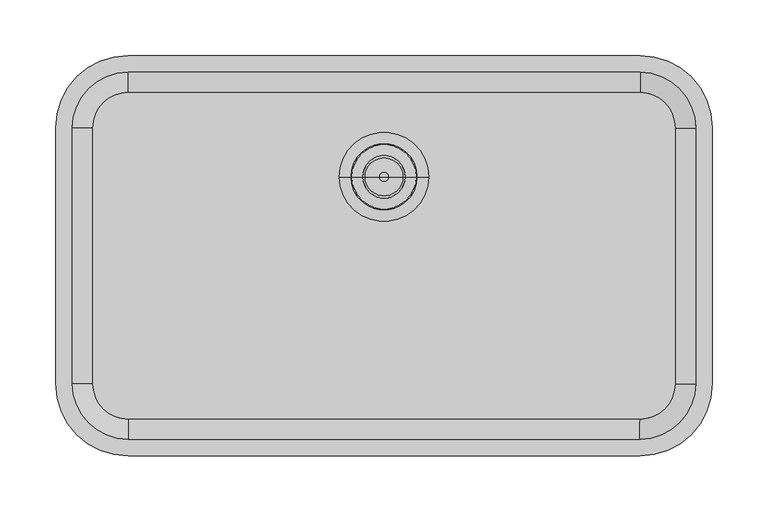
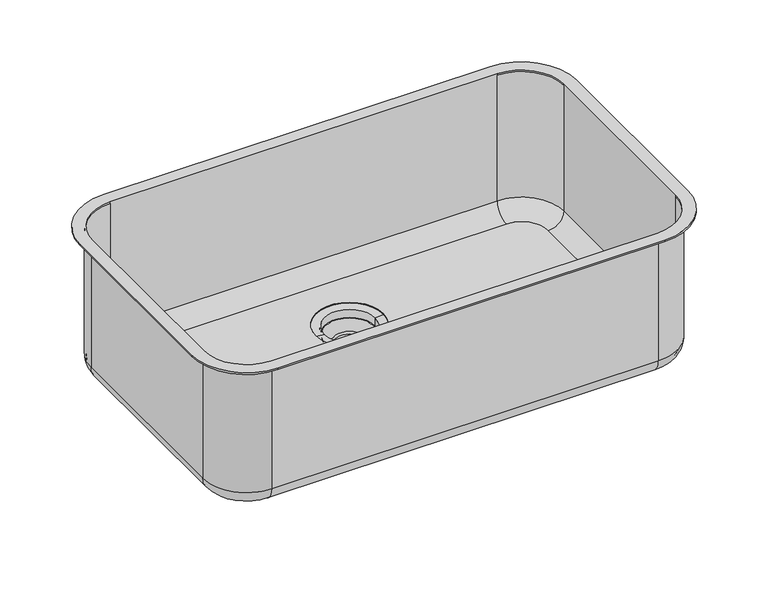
"""IFC4 building model written with IfcOpenShell, lengths in millimetres: flow terminal geometry, Blks_Coz Franke_Cuba de Embutir : Único."""

from ifc_helpers import new_model, si_unit, point, frame, origin, place, context, project, spatial, polyline, circle_curve, ellipse_curve, trimmed, source, transform, mapped, element, save
from ifc_brep_helpers import plane_surface, cylinder_surface, revolved_surface, advanced_brep


def flow_terminal_f6a3c244(model_context):
    return source(origin(), model_context, "Body", "AdvancedBrep", [
        advanced_brep(
        [(31.0, 70.9997644, -205.9049876), (-31.0, 70.9997644, -205.9049876), (-40.0, 70.9997644, -205.0049876), (40.0, 70.9997644, -205.0049876), (31.0, 70.9997644, -216.0), (-31.0, 70.9997644, -216.0), (29.9544512, 70.9997644, -216.0), (-29.9544512, 70.9997644, -216.0), (19.8395675, 70.9997644, -225.9679135), (-19.8395675, 70.9997644, -225.9679135), (17.0, 70.9997644, -228.0), (-17.0, 70.9997644, -228.0), (0.0, 70.9997644, -228.0), (1.9682294, 70.9997644, -222.7729139), (-1.9682294, 70.9997644, -222.7729139), (0.0, 70.9997644, -219.0317884), (2.2289485, 70.9997644, -227.0), (-2.2289485, 70.9997644, -227.0), (17.0, 70.9997644, -227.0), (-17.0, 70.9997644, -227.0), (19.0, 70.9997644, -225.0), (-19.0, 70.9997644, -225.0), (29.0, 70.9997644, -215.0), (-29.0, 70.9997644, -215.0), (30.0, 70.9997644, -215.0), (-30.0, 70.9997644, -215.0), (30.0, 70.9997644, -205.0), (-30.0, 70.9997644, -205.0), (40.0, 70.9997644, -204.0), (-40.0, 70.9997644, -204.0)],
        [
            (0, 1, circle_curve(frame((0.0, 70.9997644, -205.9049876), z_axis=(0.0, 0.0, 1.0), x_axis=(-1.0, 0.0, 0.0)), 31.0)),
            (1, 2),
            (2, 3, circle_curve(frame((0.0, 70.9997644, -205.0049876), z_axis=(0.0, 0.0, -1.0), x_axis=(-1.0, 0.0, 0.0)), 40.0)),
            (3, 0),
            (1, 0, circle_curve(frame((0.0, 70.9997644, -205.9049876), z_axis=(0.0, 0.0, 1.0), x_axis=(-1.0, 0.0, 0.0)), 31.0)),
            (3, 2, circle_curve(frame((0.0, 70.9997644, -205.0049876), z_axis=(0.0, 0.0, -1.0), x_axis=(-1.0, 0.0, 0.0)), 40.0)),
            (4, 5, circle_curve(frame((0.0, 70.9997644, -216.0), z_axis=(0.0, 0.0, 1.0), x_axis=(-1.0, 0.0, 0.0)), 31.0)),
            (5, 1),
            (0, 4),
            (5, 4, circle_curve(frame((0.0, 70.9997644, -216.0), z_axis=(0.0, 0.0, 1.0), x_axis=(-1.0, 0.0, 0.0)), 31.0)),
            (6, 7, circle_curve(frame((0.0, 70.9997644, -216.0), z_axis=(0.0, 0.0, 1.0), x_axis=(-1.0, 0.0, 0.0)), 29.9544512)),
            (7, 5),
            (4, 6),
            (7, 6, circle_curve(frame((0.0, 70.9997644, -216.0), z_axis=(0.0, 0.0, 1.0), x_axis=(-1.0, 0.0, 0.0)), 29.9544512)),
            (8, 9, circle_curve(frame((0.0, 70.9997644, -225.9679135), z_axis=(0.0, 0.0, 1.0), x_axis=(-1.0, 0.0, 0.0)), 19.8395675)),
            (9, 7, circle_curve(frame((-19.0, 70.9997644, -215.0), z_axis=(0.0, 1.0, 0.0), x_axis=(1.0, 0.0, 0.0)), 11.0)),
            (6, 8, circle_curve(frame((19.0, 70.9997644, -215.0), z_axis=(0.0, 1.0, 0.0), x_axis=(-1.0, 0.0, 0.0)), 11.0)),
            (9, 8, circle_curve(frame((0.0, 70.9997644, -225.9679135), z_axis=(0.0, 0.0, 1.0), x_axis=(-1.0, 0.0, 0.0)), 19.8395675)),
            (10, 11, circle_curve(frame((0.0, 70.9997644, -228.0), z_axis=(0.0, 0.0, 1.0), x_axis=(-1.0, 0.0, 0.0)), 17.0)),
            (11, 9, circle_curve(frame((-17.0, 70.9997644, -225.0), z_axis=(0.0, 1.0, 0.0), x_axis=(1.0, 0.0, 0.0)), 3.0)),
            (8, 10, circle_curve(frame((17.0, 70.9997644, -225.0), z_axis=(0.0, 1.0, 0.0), x_axis=(-1.0, 0.0, 0.0)), 3.0)),
            (11, 10, circle_curve(frame((0.0, 70.9997644, -228.0), z_axis=(0.0, 0.0, 1.0), x_axis=(-1.0, 0.0, 0.0)), 17.0)),
            (12, 11),
            (10, 12),
            (13, 14, circle_curve(frame((0.0, 70.9997644, -222.7729139), z_axis=(0.0, 0.0, 1.0), x_axis=(-1.0, 0.0, 0.0)), 1.9682294)),
            (14, 15, ellipse_curve(frame((0.0, 70.9997644, -221.0317884), z_axis=(0.0, 1.0, 0.0), x_axis=(-1.0, 0.0, 0.0)), 4.0, 2.0)),
            (15, 13, ellipse_curve(frame((0.0, 70.9997644, -221.0317884), z_axis=(0.0, 1.0, 0.0), x_axis=(1.0, 0.0, 0.0)), 4.0, 2.0)),
            (14, 13, circle_curve(frame((0.0, 70.9997644, -222.7729139), z_axis=(0.0, 0.0, 1.0), x_axis=(-1.0, 0.0, 0.0)), 1.9682294)),
            (16, 17, circle_curve(frame((0.0, 70.9997644, -227.0), z_axis=(0.0, 0.0, 1.0), x_axis=(-1.0, 0.0, 0.0)), 2.2289485)),
            (17, 14, circle_curve(frame((0.0, 70.9997644, -225.0158942), z_axis=(0.0, 1.0, 0.0), x_axis=(1.0, 0.0, 0.0)), 2.9841058)),
            (13, 16, circle_curve(frame((0.0, 70.9997644, -225.0158942), z_axis=(0.0, 1.0, 0.0), x_axis=(-1.0, 0.0, 0.0)), 2.9841058)),
            (17, 16, circle_curve(frame((0.0, 70.9997644, -227.0), z_axis=(0.0, 0.0, 1.0), x_axis=(-1.0, 0.0, 0.0)), 2.2289485)),
            (18, 19, circle_curve(frame((0.0, 70.9997644, -227.0), z_axis=(0.0, 0.0, 1.0), x_axis=(-1.0, 0.0, 0.0)), 17.0)),
            (19, 17),
            (16, 18),
            (19, 18, circle_curve(frame((0.0, 70.9997644, -227.0), z_axis=(0.0, 0.0, 1.0), x_axis=(-1.0, 0.0, 0.0)), 17.0)),
            (20, 21, circle_curve(frame((0.0, 70.9997644, -225.0), z_axis=(0.0, 0.0, 1.0), x_axis=(-1.0, 0.0, 0.0)), 19.0)),
            (21, 19, circle_curve(frame((-17.0, 70.9997644, -225.0), z_axis=(0.0, -1.0, 0.0), x_axis=(1.0, 0.0, 0.0)), 2.0)),
            (18, 20, circle_curve(frame((17.0, 70.9997644, -225.0), z_axis=(0.0, -1.0, 0.0), x_axis=(-1.0, 0.0, 0.0)), 2.0)),
            (21, 20, circle_curve(frame((0.0, 70.9997644, -225.0), z_axis=(0.0, 0.0, 1.0), x_axis=(-1.0, 0.0, 0.0)), 19.0)),
            (22, 23, circle_curve(frame((0.0, 70.9997644, -215.0), z_axis=(0.0, 0.0, 1.0), x_axis=(-1.0, 0.0, 0.0)), 29.0)),
            (23, 21, circle_curve(frame((-19.0, 70.9997644, -215.0), z_axis=(0.0, -1.0, 0.0), x_axis=(1.0, 0.0, 0.0)), 10.0)),
            (20, 22, circle_curve(frame((19.0, 70.9997644, -215.0), z_axis=(0.0, -1.0, 0.0), x_axis=(-1.0, 0.0, 0.0)), 10.0)),
            (23, 22, circle_curve(frame((0.0, 70.9997644, -215.0), z_axis=(0.0, 0.0, 1.0), x_axis=(-1.0, 0.0, 0.0)), 29.0)),
            (24, 25, circle_curve(frame((0.0, 70.9997644, -215.0), z_axis=(0.0, 0.0, 1.0), x_axis=(-1.0, 0.0, 0.0)), 30.0)),
            (25, 23),
            (22, 24),
            (25, 24, circle_curve(frame((0.0, 70.9997644, -215.0), z_axis=(0.0, 0.0, 1.0), x_axis=(-1.0, 0.0, 0.0)), 30.0)),
            (26, 27, circle_curve(frame((0.0, 70.9997644, -205.0), z_axis=(0.0, 0.0, 1.0), x_axis=(-1.0, 0.0, 0.0)), 30.0)),
            (27, 25),
            (24, 26),
            (27, 26, circle_curve(frame((0.0, 70.9997644, -205.0), z_axis=(0.0, 0.0, 1.0), x_axis=(-1.0, 0.0, 0.0)), 30.0)),
            (28, 29, circle_curve(frame((0.0, 70.9997644, -204.0), z_axis=(0.0, 0.0, 1.0), x_axis=(-1.0, 0.0, 0.0)), 40.0)),
            (29, 27),
            (26, 28),
            (29, 28, circle_curve(frame((0.0, 70.9997644, -204.0), z_axis=(0.0, 0.0, 1.0), x_axis=(-1.0, 0.0, 0.0)), 40.0)),
            (2, 29),
            (28, 3),
        ],
        [
            revolved_surface(polyline([(-40.0, 70.9997644, -205.0049876), (-31.0, 70.9997644, -205.9049876)]), (0.0, 70.9997644, -197.0), (0.0, 0.0, -1.0)),
            cylinder_surface(frame((0.0, 70.9997644, -197.0), z_axis=(0.0, 0.0, -1.0), x_axis=(-1.0, 0.0, 0.0)), 31.0),
            plane_surface(frame((0.0, 70.9997644, -216.0), z_axis=(0.0, 0.0, -1.0), x_axis=(-1.0, 0.0, 0.0))),
            revolved_surface(trimmed(ellipse_curve(frame((-19.0, 70.9997644, -215.0), z_axis=(0.0, -1.0, 0.0), x_axis=(1.0, 0.0, 0.0)), 11.0, 11.0), [point((-29.9544512, 70.9997644, -216.0))], [point((-19.8395675, 70.9997644, -225.9679135))], True, "CARTESIAN"), (0.0, 70.9997644, -197.0), (0.0, 0.0, -1.0)),
            revolved_surface(trimmed(ellipse_curve(frame((-17.0, 70.9997644, -225.0), z_axis=(0.0, -1.0, 0.0), x_axis=(1.0, 0.0, 0.0)), 3.0, 3.0), [point((-19.8395675, 70.9997644, -225.9679135))], [point((-17.0, 70.9997644, -228.0))], True, "CARTESIAN"), (0.0, 70.9997644, -197.0), (0.0, 0.0, -1.0)),
            plane_surface(frame((0.0, 70.9997644, -228.0), z_axis=(0.0, 0.0, -1.0), x_axis=(-1.0, 0.0, 0.0))),
            revolved_surface(trimmed(ellipse_curve(frame((0.0, 70.9997644, -221.0317884), z_axis=(0.0, -1.0, 0.0), x_axis=(-1.0, 0.0, 0.0)), 4.0, 2.0), [point((0.0, 70.9997644, -219.0317884))], [point((-1.9682294, 70.9997644, -222.7729139))], True, "CARTESIAN"), (0.0, 70.9997644, -197.0), (0.0, 0.0, -1.0)),
            revolved_surface(trimmed(ellipse_curve(frame((0.0, 70.9997644, -225.0158942), z_axis=(0.0, -1.0, 0.0), x_axis=(1.0, 0.0, 0.0)), 2.9841058, 2.9841058), [point((-1.9682294, 70.9997644, -222.7729139))], [point((-2.2289485, 70.9997644, -227.0))], True, "CARTESIAN"), (0.0, 70.9997644, -197.0), (0.0, 0.0, -1.0)),
            plane_surface(frame((0.0, 70.9997644, -227.0), z_axis=(0.0, 0.0, 1.0), x_axis=(-1.0, 0.0, 0.0))),
            revolved_surface(trimmed(ellipse_curve(frame((-17.0, 70.9997644, -225.0), z_axis=(0.0, 1.0, 0.0), x_axis=(1.0, 0.0, 0.0)), 2.0, 2.0), [point((-17.0, 70.9997644, -227.0))], [point((-19.0, 70.9997644, -225.0))], True, "CARTESIAN"), (0.0, 70.9997644, -197.0), (0.0, 0.0, -1.0)),
            revolved_surface(trimmed(ellipse_curve(frame((-19.0, 70.9997644, -215.0), z_axis=(0.0, 1.0, 0.0), x_axis=(1.0, 0.0, 0.0)), 10.0, 10.0), [point((-19.0, 70.9997644, -225.0))], [point((-29.0, 70.9997644, -215.0))], True, "CARTESIAN"), (0.0, 70.9997644, -197.0), (0.0, 0.0, -1.0)),
            plane_surface(frame((0.0, 70.9997644, -215.0), z_axis=(0.0, 0.0, 1.0), x_axis=(-1.0, 0.0, 0.0))),
            revolved_surface(polyline([(-30.0, 70.9997644, -215.0), (-30.0, 70.9997644, -205.0)]), (0.0, 70.9997644, -197.0), (0.0, 0.0, -1.0)),
            revolved_surface(polyline([(-30.0, 70.9997644, -205.0), (-40.0, 70.9997644, -204.0)]), (0.0, 70.9997644, -197.0), (0.0, 0.0, -1.0)),
            cylinder_surface(frame((0.0, 70.9997644, -197.0), z_axis=(0.0, 0.0, -1.0), x_axis=(-1.0, 0.0, 0.0)), 40.0),
        ],
        [
            (0, [[1, 2, 3, 4]]),
            (0, [[5, -4, 6, -2]]),
            (1, [[7, 8, -1, 9]]),
            (1, [[10, -9, -5, -8]]),
            (2, [[11, 12, -7, 13]]),
            (2, [[14, -13, -10, -12]]),
            (3, [[15, 16, -11, 17]]),
            (3, [[18, -17, -14, -16]]),
            (4, [[19, 20, -15, 21]]),
            (4, [[22, -21, -18, -20]]),
            (5, [[23, -19, 24]]),
            (5, [[-24, -22, -23]]),
            (6, [[25, 26, 27]]),
            (6, [[28, -27, -26]]),
            (7, [[29, 30, -25, 31]]),
            (7, [[32, -31, -28, -30]]),
            (8, [[33, 34, -29, 35]]),
            (8, [[36, -35, -32, -34]]),
            (9, [[37, 38, -33, 39]]),
            (9, [[40, -39, -36, -38]]),
            (10, [[41, 42, -37, 43]]),
            (10, [[44, -43, -40, -42]]),
            (11, [[45, 46, -41, 47]]),
            (11, [[48, -47, -44, -46]]),
            (12, [[49, 50, -45, 51]]),
            (12, [[52, -51, -48, -50]]),
            (13, [[53, 54, -49, 55]]),
            (13, [[56, -55, -52, -54]]),
            (14, [[-3, 57, -53, 58]]),
            (14, [[-6, -58, -56, -57]]),
        ],
    ),
        advanced_brep(
        [(-230.0, -147.0, -205.0), (-230.0, -167.0, -185.0), (-282.0, -115.0, -185.0), (-262.0, -115.0, -205.0), (-230.0, -165.0, -185.0), (-230.0, -147.0, -203.0), (-262.0, -115.0, -203.0), (-280.0, -115.0, -185.0), (-282.0, 115.0, -185.0), (-262.0, 115.0, -205.0), (-262.0, 115.0, -203.0), (-280.0, 115.0, -185.0), (-230.0, 167.0, -185.0), (-230.0, 147.0, -205.0), (-230.0, 147.0, -203.0), (-230.0, 165.0, -185.0), (230.0, 167.0, -185.0), (230.0, 147.0, -205.0), (230.0, 147.0, -203.0), (230.0, 165.0, -185.0), (282.0, 115.0, -185.0), (262.0, 115.0, -205.0), (262.0, 115.0, -203.0), (280.0, 115.0, -185.0), (282.0, -115.0, -185.0), (262.0, -115.0, -205.0), (262.0, -115.0, -203.0), (280.0, -115.0, -185.0), (230.0, -167.0, -185.0), (230.0, -147.0, -205.0), (230.0, -147.0, -203.0), (230.0, -165.0, -185.0), (40.0, 71.0, -203.0), (40.0, 71.0, -205.0), (-40.0, 71.0, -205.0), (-40.0, 71.0, -203.0), (230.0, 165.0, -27.0), (280.0, 115.0, -27.0), (280.0, -115.0, -27.0), (280.0, -115.0, -25.0), (280.0, 115.0, -25.0), (230.0, -165.0, -27.0), (-230.0, -165.0, -27.0), (-230.0, -165.0, -25.0), (230.0, -165.0, -25.0), (-280.0, -115.0, -27.0), (-280.0, 115.0, -27.0), (-280.0, 115.0, -25.0), (-280.0, -115.0, -25.0), (-230.0, 165.0, -27.0), (230.0, 165.0, -25.0), (-230.0, 165.0, -25.0), (-230.0, 167.0, -27.0), (-282.0, 115.0, -27.0), (-282.0, -115.0, -27.0), (-230.0, -167.0, -27.0), (230.0, -167.0, -27.0), (282.0, -115.0, -27.0), (282.0, 115.0, -27.0), (230.0, 167.0, -27.0), (-295.0, 115.0, -25.0), (-295.0, -115.0, -25.0), (-230.0, -180.0, -25.0), (230.0, -180.0, -25.0), (295.0, -115.0, -25.0), (295.0, 115.0, -25.0), (230.0, 180.0, -25.0), (-230.0, 180.0, -25.0), (-295.0, 115.0, -27.0), (-230.0, 180.0, -27.0), (230.0, 180.0, -27.0), (295.0, 115.0, -27.0), (295.0, -115.0, -27.0), (230.0, -180.0, -27.0), (-230.0, -180.0, -27.0), (-295.0, -115.0, -27.0)],
        [
            (0, 1, circle_curve(frame((-230.0, -147.0, -185.0), z_axis=(-1.0, 0.0, 0.0), x_axis=(0.0, 1.0, 0.0)), 20.0)),
            (1, 2, circle_curve(frame((-230.0, -115.0, -185.0), z_axis=(0.0, 0.0, -1.0), x_axis=(0.0, -1.0, 0.0)), 52.0)),
            (2, 3, circle_curve(frame((-262.0, -115.0, -185.0), z_axis=(0.0, -1.0, 0.0), x_axis=(1.0, 0.0, 0.0)), 20.0)),
            (3, 0, circle_curve(frame((-230.0, -115.0, -205.0), z_axis=(0.0, 0.0, 1.0), x_axis=(0.0, -1.0, 0.0)), 32.0)),
            (4, 5, circle_curve(frame((-230.0, -147.0, -185.0), z_axis=(1.0, 0.0, 0.0), x_axis=(0.0, 1.0, 0.0)), 18.0)),
            (5, 6, circle_curve(frame((-230.0, -115.0, -203.0), z_axis=(0.0, 0.0, -1.0), x_axis=(0.0, -1.0, 0.0)), 32.0)),
            (6, 7, circle_curve(frame((-262.0, -115.0, -185.0), z_axis=(0.0, 1.0, 0.0), x_axis=(1.0, 0.0, 0.0)), 18.0)),
            (7, 4, circle_curve(frame((-230.0, -115.0, -185.0), z_axis=(0.0, 0.0, 1.0), x_axis=(0.0, -1.0, 0.0)), 50.0)),
            (2, 8),
            (8, 9, circle_curve(frame((-262.0, 115.0, -185.0), z_axis=(0.0, -1.0, 0.0), x_axis=(1.0, 0.0, 0.0)), 20.0)),
            (9, 3),
            (6, 10),
            (10, 11, circle_curve(frame((-262.0, 115.0, -185.0), z_axis=(0.0, 1.0, 0.0), x_axis=(1.0, 0.0, 0.0)), 18.0)),
            (11, 7),
            (8, 12, circle_curve(frame((-230.0, 115.0, -185.0), z_axis=(0.0, 0.0, -1.0), x_axis=(-1.0, 0.0, 0.0)), 52.0)),
            (12, 13, circle_curve(frame((-230.0, 147.0, -185.0), z_axis=(-1.0, 0.0, 0.0), x_axis=(0.0, -1.0, 0.0)), 20.0)),
            (13, 9, circle_curve(frame((-230.0, 115.0, -205.0), z_axis=(0.0, 0.0, 1.0), x_axis=(-1.0, 0.0, 0.0)), 32.0)),
            (10, 14, circle_curve(frame((-230.0, 115.0, -203.0), z_axis=(0.0, 0.0, -1.0), x_axis=(-1.0, 0.0, 0.0)), 32.0)),
            (14, 15, circle_curve(frame((-230.0, 147.0, -185.0), z_axis=(1.0, 0.0, 0.0), x_axis=(0.0, -1.0, 0.0)), 18.0)),
            (15, 11, circle_curve(frame((-230.0, 115.0, -185.0), z_axis=(0.0, 0.0, 1.0), x_axis=(-1.0, 0.0, 0.0)), 50.0)),
            (12, 16),
            (16, 17, circle_curve(frame((230.0, 147.0, -185.0), z_axis=(-1.0, 0.0, 0.0), x_axis=(0.0, -1.0, 0.0)), 20.0)),
            (17, 13),
            (14, 18),
            (18, 19, circle_curve(frame((230.0, 147.0, -185.0), z_axis=(1.0, 0.0, 0.0), x_axis=(0.0, -1.0, 0.0)), 18.0)),
            (19, 15),
            (16, 20, circle_curve(frame((230.0, 115.0, -185.0), z_axis=(0.0, 0.0, -1.0), x_axis=(0.0, 1.0, 0.0)), 52.0)),
            (20, 21, circle_curve(frame((262.0, 115.0, -185.0), z_axis=(0.0, 1.0, 0.0), x_axis=(-1.0, 0.0, 0.0)), 20.0)),
            (21, 17, circle_curve(frame((230.0, 115.0, -205.0), z_axis=(0.0, 0.0, 1.0), x_axis=(0.0, 1.0, 0.0)), 32.0)),
            (18, 22, circle_curve(frame((230.0, 115.0, -203.0), z_axis=(0.0, 0.0, -1.0), x_axis=(0.0, 1.0, 0.0)), 32.0)),
            (22, 23, circle_curve(frame((262.0, 115.0, -185.0), z_axis=(0.0, -1.0, 0.0), x_axis=(-1.0, 0.0, 0.0)), 18.0)),
            (23, 19, circle_curve(frame((230.0, 115.0, -185.0), z_axis=(0.0, 0.0, 1.0), x_axis=(0.0, 1.0, 0.0)), 50.0)),
            (20, 24),
            (24, 25, circle_curve(frame((262.0, -115.0, -185.0), z_axis=(0.0, 1.0, 0.0), x_axis=(-1.0, 0.0, 0.0)), 20.0)),
            (25, 21),
            (22, 26),
            (26, 27, circle_curve(frame((262.0, -115.0, -185.0), z_axis=(0.0, -1.0, 0.0), x_axis=(-1.0, 0.0, 0.0)), 18.0)),
            (27, 23),
            (24, 28, circle_curve(frame((230.0, -115.0, -185.0), z_axis=(0.0, 0.0, -1.0), x_axis=(1.0, 0.0, 0.0)), 52.0)),
            (28, 29, circle_curve(frame((230.0, -147.0, -185.0), z_axis=(1.0, 0.0, 0.0), x_axis=(0.0, 1.0, 0.0)), 20.0)),
            (29, 25, circle_curve(frame((230.0, -115.0, -205.0), z_axis=(0.0, 0.0, 1.0), x_axis=(1.0, 0.0, 0.0)), 32.0)),
            (26, 30, circle_curve(frame((230.0, -115.0, -203.0), z_axis=(0.0, 0.0, -1.0), x_axis=(1.0, 0.0, 0.0)), 32.0)),
            (30, 31, circle_curve(frame((230.0, -147.0, -185.0), z_axis=(-1.0, 0.0, 0.0), x_axis=(0.0, 1.0, 0.0)), 18.0)),
            (31, 27, circle_curve(frame((230.0, -115.0, -185.0), z_axis=(0.0, 0.0, 1.0), x_axis=(1.0, 0.0, 0.0)), 50.0)),
            (0, 29),
            (28, 1),
            (4, 31),
            (30, 5),
            (32, 33),
            (33, 34, circle_curve(frame((0.0, 71.0, -205.0), z_axis=(0.0, 0.0, -1.0), x_axis=(1.0, 0.0, 0.0)), 40.0)),
            (34, 35),
            (35, 32, circle_curve(frame((0.0, 71.0, -203.0), z_axis=(0.0, 0.0, 1.0), x_axis=(1.0, 0.0, 0.0)), 40.0)),
            (32, 35, circle_curve(frame((0.0, 71.0, -203.0), z_axis=(0.0, 0.0, 1.0), x_axis=(1.0, 0.0, 0.0)), 40.0)),
            (34, 33, circle_curve(frame((0.0, 71.0, -205.0), z_axis=(0.0, 0.0, -1.0), x_axis=(1.0, 0.0, 0.0)), 40.0)),
            (36, 19),
            (23, 37),
            (37, 36, circle_curve(frame((230.0, 115.0, -27.0), z_axis=(0.0, 0.0, 1.0), x_axis=(1.0, 0.0, 0.0)), 50.0)),
            (27, 38),
            (38, 39),
            (39, 40),
            (40, 37),
            (31, 41),
            (41, 38, circle_curve(frame((230.0, -115.0, -27.0), z_axis=(0.0, 0.0, 1.0), x_axis=(1.0, 0.0, 0.0)), 50.0)),
            (4, 42),
            (42, 43),
            (43, 44),
            (44, 41),
            (7, 45),
            (45, 42, circle_curve(frame((-230.0, -115.0, -27.0), z_axis=(0.0, 0.0, 1.0), x_axis=(1.0, 0.0, 0.0)), 50.0)),
            (11, 46),
            (46, 47),
            (47, 48),
            (48, 45),
            (15, 49),
            (49, 46, circle_curve(frame((-230.0, 115.0, -27.0), z_axis=(0.0, 0.0, 1.0), x_axis=(1.0, 0.0, 0.0)), 50.0)),
            (36, 50),
            (50, 51),
            (51, 49),
            (52, 12),
            (8, 53),
            (53, 52, circle_curve(frame((-230.0, 115.0, -27.0), z_axis=(0.0, 0.0, -1.0), x_axis=(1.0, 0.0, 0.0)), 52.0)),
            (2, 54),
            (54, 53),
            (1, 55),
            (55, 54, circle_curve(frame((-230.0, -115.0, -27.0), z_axis=(0.0, 0.0, -1.0), x_axis=(1.0, 0.0, 0.0)), 52.0)),
            (28, 56),
            (56, 55),
            (24, 57),
            (57, 56, circle_curve(frame((230.0, -115.0, -27.0), z_axis=(0.0, 0.0, -1.0), x_axis=(1.0, 0.0, 0.0)), 52.0)),
            (20, 58),
            (58, 57),
            (16, 59),
            (59, 58, circle_curve(frame((230.0, 115.0, -27.0), z_axis=(0.0, 0.0, -1.0), x_axis=(1.0, 0.0, 0.0)), 52.0)),
            (52, 59),
            (60, 61),
            (61, 62, circle_curve(frame((-230.0, -115.0, -25.0), z_axis=(0.0, 0.0, 1.0), x_axis=(1.0, 0.0, 0.0)), 65.0)),
            (62, 63),
            (63, 64, circle_curve(frame((230.0, -115.0, -25.0), z_axis=(0.0, 0.0, 1.0), x_axis=(1.0, 0.0, 0.0)), 65.0)),
            (64, 65),
            (65, 66, circle_curve(frame((230.0, 115.0, -25.0), z_axis=(0.0, 0.0, 1.0), x_axis=(1.0, 0.0, 0.0)), 65.0)),
            (66, 67),
            (67, 60, circle_curve(frame((-230.0, 115.0, -25.0), z_axis=(0.0, 0.0, 1.0), x_axis=(1.0, 0.0, 0.0)), 65.0)),
            (50, 40, circle_curve(frame((230.0, 115.0, -25.0), z_axis=(0.0, 0.0, -1.0), x_axis=(1.0, 0.0, 0.0)), 50.0)),
            (39, 44, circle_curve(frame((230.0, -115.0, -25.0), z_axis=(0.0, 0.0, -1.0), x_axis=(1.0, 0.0, 0.0)), 50.0)),
            (43, 48, circle_curve(frame((-230.0, -115.0, -25.0), z_axis=(0.0, 0.0, -1.0), x_axis=(1.0, 0.0, 0.0)), 50.0)),
            (47, 51, circle_curve(frame((-230.0, 115.0, -25.0), z_axis=(0.0, 0.0, -1.0), x_axis=(1.0, 0.0, 0.0)), 50.0)),
            (68, 69, circle_curve(frame((-230.0, 115.0, -27.0), z_axis=(0.0, 0.0, -1.0), x_axis=(1.0, 0.0, 0.0)), 65.0)),
            (69, 70),
            (70, 71, circle_curve(frame((230.0, 115.0, -27.0), z_axis=(0.0, 0.0, -1.0), x_axis=(1.0, 0.0, 0.0)), 65.0)),
            (71, 72),
            (72, 73, circle_curve(frame((230.0, -115.0, -27.0), z_axis=(0.0, 0.0, -1.0), x_axis=(1.0, 0.0, 0.0)), 65.0)),
            (73, 74),
            (74, 75, circle_curve(frame((-230.0, -115.0, -27.0), z_axis=(0.0, 0.0, -1.0), x_axis=(1.0, 0.0, 0.0)), 65.0)),
            (75, 68),
            (60, 68),
            (75, 61),
            (74, 62),
            (73, 63),
            (72, 64),
            (71, 65),
            (70, 66),
            (69, 67),
        ],
        [
            revolved_surface(trimmed(ellipse_curve(frame((-230.0, -147.0, -185.0), z_axis=(1.0, 0.0, 0.0), x_axis=(0.0, 1.0, 0.0)), 20.0, 20.0), [point((-230.0, -167.0, -185.0))], [point((-230.0, -147.0, -205.0))], True, "CARTESIAN"), (-230.0, -115.0, -185.0), (0.0, 0.0, -1.0)),
            revolved_surface(trimmed(ellipse_curve(frame((-230.0, -147.0, -185.0), z_axis=(-1.0, 0.0, 0.0), x_axis=(0.0, 1.0, 0.0)), 18.0, 18.0), [point((-230.0, -147.0, -203.0))], [point((-230.0, -165.0, -185.0))], True, "CARTESIAN"), (-230.0, -115.0, -185.0), (0.0, 0.0, -1.0)),
            cylinder_surface(frame((-262.0, -115.0, -185.0), z_axis=(0.0, -1.0, 0.0), x_axis=(1.0, 0.0, 0.0)), 20.0),
            revolved_surface(polyline([(-244.0, 115.0, -185.0), (-244.0, -115.0, -185.0)]), (-262.0, -115.0, -185.0), (0.0, 1.0, 0.0)),
            revolved_surface(trimmed(ellipse_curve(frame((-262.0, 115.0, -185.0), z_axis=(0.0, -1.0, 0.0), x_axis=(1.0, 0.0, 0.0)), 20.0, 20.0), [point((-282.0, 115.0, -185.0))], [point((-262.0, 115.0, -205.0))], True, "CARTESIAN"), (-230.0, 115.0, -185.0), (0.0, 0.0, -1.0)),
            revolved_surface(trimmed(ellipse_curve(frame((-262.0, 115.0, -185.0), z_axis=(0.0, 1.0, 0.0), x_axis=(1.0, 0.0, 0.0)), 18.0, 18.0), [point((-262.0, 115.0, -203.0))], [point((-280.0, 115.0, -185.0))], True, "CARTESIAN"), (-230.0, 115.0, -185.0), (0.0, 0.0, -1.0)),
            cylinder_surface(frame((-230.0, 147.0, -185.0), z_axis=(-1.0, 0.0, 0.0), x_axis=(0.0, -1.0, 0.0)), 20.0),
            revolved_surface(polyline([(230.0, 129.0, -185.0), (-230.0, 129.0, -185.0)]), (-230.0, 147.0, -185.0), (1.0, 0.0, 0.0)),
            revolved_surface(trimmed(ellipse_curve(frame((230.0, 147.0, -185.0), z_axis=(-1.0, 0.0, 0.0), x_axis=(0.0, -1.0, 0.0)), 20.0, 20.0), [point((230.0, 167.0, -185.0))], [point((230.0, 147.0, -205.0))], True, "CARTESIAN"), (230.0, 115.0, -185.0), (0.0, 0.0, -1.0)),
            revolved_surface(trimmed(ellipse_curve(frame((230.0, 147.0, -185.0), z_axis=(1.0, 0.0, 0.0), x_axis=(0.0, -1.0, 0.0)), 18.0, 18.0), [point((230.0, 147.0, -203.0))], [point((230.0, 165.0, -185.0))], True, "CARTESIAN"), (230.0, 115.0, -185.0), (0.0, 0.0, -1.0)),
            cylinder_surface(frame((262.0, 115.0, -185.0), z_axis=(0.0, 1.0, 0.0), x_axis=(-1.0, 0.0, 0.0)), 20.0),
            revolved_surface(polyline([(244.0, -115.0, -185.0), (244.0, 115.0, -185.0)]), (262.0, 115.0, -185.0), (0.0, -1.0, 0.0)),
            revolved_surface(trimmed(ellipse_curve(frame((262.0, -115.0, -185.0), z_axis=(0.0, 1.0, 0.0), x_axis=(-1.0, 0.0, 0.0)), 20.0, 20.0), [point((282.0, -115.0, -185.0))], [point((262.0, -115.0, -205.0))], True, "CARTESIAN"), (230.0, -115.0, -185.0), (0.0, 0.0, -1.0)),
            revolved_surface(trimmed(ellipse_curve(frame((262.0, -115.0, -185.0), z_axis=(0.0, -1.0, 0.0), x_axis=(-1.0, 0.0, 0.0)), 18.0, 18.0), [point((262.0, -115.0, -203.0))], [point((280.0, -115.0, -185.0))], True, "CARTESIAN"), (230.0, -115.0, -185.0), (0.0, 0.0, -1.0)),
            cylinder_surface(frame((230.0, -147.0, -185.0), z_axis=(1.0, 0.0, 0.0), x_axis=(0.0, 1.0, 0.0)), 20.0),
            revolved_surface(polyline([(-230.0, -129.0, -185.0), (230.0, -129.0, -185.0)]), (230.0, -147.0, -185.0), (-1.0, 0.0, 0.0)),
            revolved_surface(polyline([(40.0, 71.0, -203.0), (40.0, 71.0, -205.0)]), (0.0, 71.0, -205.0), (0.0, 0.0, 1.0)),
            plane_surface(frame((-230.0, 147.0, -203.0), z_axis=(0.0, 0.0, 1.0), x_axis=(-1.0, 0.0, 0.0))),
            plane_surface(frame((-230.0, 147.0, -205.0), z_axis=(0.0, 0.0, -1.0), x_axis=(1.0, 0.0, 0.0))),
            revolved_surface(polyline([(280.0, 115.0, -185.0), (280.0, 115.0, -27.0)]), (230.0, 115.0, -185.0), (0.0, 0.0, -1.0)),
            plane_surface(frame((280.0, 115.0, -27.0), z_axis=(-1.0, 0.0, 0.0), x_axis=(0.0, 0.0, -1.0))),
            revolved_surface(polyline([(280.0, -115.0, -185.0), (280.0, -115.0, -27.0)]), (230.0, -115.0, -185.0), (0.0, 0.0, -1.0)),
            plane_surface(frame((230.0, -165.0, -27.0), z_axis=(0.0, 1.0, 0.0), x_axis=(0.0, 0.0, -1.0))),
            revolved_surface(polyline([(-180.0, -115.0, -185.0), (-180.0, -115.0, -27.0)]), (-230.0, -115.0, -185.0), (0.0, 0.0, -1.0)),
            plane_surface(frame((-280.0, -115.0, -27.0), z_axis=(1.0, 0.0, 0.0), x_axis=(0.0, 0.0, -1.0))),
            revolved_surface(polyline([(-180.0, 115.0, -185.0), (-180.0, 115.0, -27.0)]), (-230.0, 115.0, -185.0), (0.0, 0.0, -1.0)),
            plane_surface(frame((-230.0, 165.0, -27.0), z_axis=(0.0, -1.0, 0.0), x_axis=(0.0, 0.0, -1.0))),
            cylinder_surface(frame((-230.0, 115.0, 0.0), z_axis=(0.0, 0.0, 1.0), x_axis=(1.0, 0.0, 0.0)), 52.0),
            plane_surface(frame((-282.0, 115.0, -27.0), z_axis=(-1.0, 0.0, 0.0), x_axis=(0.0, 0.0, -1.0))),
            cylinder_surface(frame((-230.0, -115.0, 0.0), z_axis=(0.0, 0.0, 1.0), x_axis=(1.0, 0.0, 0.0)), 52.0),
            plane_surface(frame((-230.0, -167.0, -27.0), z_axis=(0.0, -1.0, 0.0), x_axis=(0.0, 0.0, -1.0))),
            cylinder_surface(frame((230.0, -115.0, 0.0), z_axis=(0.0, 0.0, 1.0), x_axis=(1.0, 0.0, 0.0)), 52.0),
            plane_surface(frame((282.0, -115.0, -27.0), z_axis=(1.0, 0.0, 0.0), x_axis=(0.0, 0.0, -1.0))),
            cylinder_surface(frame((230.0, 115.0, 0.0), z_axis=(0.0, 0.0, 1.0), x_axis=(1.0, 0.0, 0.0)), 52.0),
            plane_surface(frame((230.0, 167.0, -27.0), z_axis=(0.0, 1.0, 0.0), x_axis=(0.0, 0.0, -1.0))),
            plane_surface(frame((280.0, 115.0, -25.0), z_axis=(0.0, 0.0, 1.0), x_axis=(0.0, -1.0, 0.0))),
            plane_surface(frame((280.0, 115.0, -27.0), z_axis=(0.0, 0.0, -1.0), x_axis=(0.0, 1.0, 0.0))),
            revolved_surface(polyline([(280.0, 115.0, -27.0), (280.0, 115.0, -25.0)]), (230.0, 115.0, -27.0), (0.0, 0.0, -1.0)),
            revolved_surface(polyline([(280.0, -115.0, -27.0), (280.0, -115.0, -25.0)]), (230.0, -115.0, -27.0), (0.0, 0.0, -1.0)),
            revolved_surface(polyline([(-180.0, -115.0, -27.0), (-180.0, -115.0, -25.0)]), (-230.0, -115.0, -27.0), (0.0, 0.0, -1.0)),
            revolved_surface(polyline([(-180.0, 115.0, -27.0), (-180.0, 115.0, -25.0)]), (-230.0, 115.0, -27.0), (0.0, 0.0, -1.0)),
            plane_surface(frame((-295.0, 115.0, -25.0), z_axis=(-1.0, 0.0, 0.0), x_axis=(0.0, 0.0, -1.0))),
            cylinder_surface(frame((-230.0, -115.0, 75.0), z_axis=(0.0, 0.0, 1.0), x_axis=(1.0, 0.0, 0.0)), 65.0),
            plane_surface(frame((-230.0, -180.0, -25.0), z_axis=(0.0, -1.0, 0.0), x_axis=(0.0, 0.0, -1.0))),
            cylinder_surface(frame((230.0, -115.0, 75.0), z_axis=(0.0, 0.0, 1.0), x_axis=(1.0, 0.0, 0.0)), 65.0),
            plane_surface(frame((295.0, -115.0, -25.0), z_axis=(1.0, 0.0, 0.0), x_axis=(0.0, 0.0, -1.0))),
            cylinder_surface(frame((230.0, 115.0, 75.0), z_axis=(0.0, 0.0, 1.0), x_axis=(1.0, 0.0, 0.0)), 65.0),
            plane_surface(frame((230.0, 180.0, -25.0), z_axis=(0.0, 1.0, 0.0), x_axis=(0.0, 0.0, -1.0))),
            cylinder_surface(frame((-230.0, 115.0, 75.0), z_axis=(0.0, 0.0, 1.0), x_axis=(1.0, 0.0, 0.0)), 65.0),
        ],
        [
            (0, [[1, 2, 3, 4]]),
            (1, [[5, 6, 7, 8]]),
            (2, [[-3, 9, 10, 11]]),
            (3, [[-7, 12, 13, 14]]),
            (4, [[-10, 15, 16, 17]]),
            (5, [[-13, 18, 19, 20]]),
            (6, [[-16, 21, 22, 23]]),
            (7, [[-19, 24, 25, 26]]),
            (8, [[-22, 27, 28, 29]]),
            (9, [[-25, 30, 31, 32]]),
            (10, [[-28, 33, 34, 35]]),
            (11, [[-31, 36, 37, 38]]),
            (12, [[-34, 39, 40, 41]]),
            (13, [[-37, 42, 43, 44]]),
            (14, [[-1, 45, -40, 46]]),
            (15, [[-5, 47, -43, 48]]),
            (16, [[49, 50, 51, 52]]),
            (16, [[-49, 53, -51, 54]]),
            (17, [[-6, -48, -42, -36, -30, -24, -18, -12], [-52, -53]]),
            (18, [[-4, -11, -17, -23, -29, -35, -41, -45], [-50, -54]]),
            (19, [[55, -32, 56, 57]]),
            (20, [[-56, -38, 58, 59, 60, 61]]),
            (21, [[-58, -44, 62, 63]]),
            (22, [[-62, -47, 64, 65, 66, 67]]),
            (23, [[-64, -8, 68, 69]]),
            (24, [[-68, -14, 70, 71, 72, 73]]),
            (25, [[-70, -20, 74, 75]]),
            (26, [[-55, 76, 77, 78, -74, -26]]),
            (27, [[79, -15, 80, 81]]),
            (28, [[-80, -9, 82, 83]]),
            (29, [[-82, -2, 84, 85]]),
            (30, [[-84, -46, 86, 87]]),
            (31, [[-86, -39, 88, 89]]),
            (32, [[-88, -33, 90, 91]]),
            (33, [[-90, -27, 92, 93]]),
            (34, [[-79, 94, -92, -21]]),
            (35, [[95, 96, 97, 98, 99, 100, 101, 102], [103, -60, 104, -66, 105, -72, 106, -77]]),
            (36, [[107, 108, 109, 110, 111, 112, 113, 114], [-81, -83, -85, -87, -89, -91, -93, -94]]),
            (37, [[-103, -76, -57, -61]]),
            (38, [[-104, -59, -63, -67]]),
            (39, [[-105, -65, -69, -73]]),
            (40, [[-106, -71, -75, -78]]),
            (41, [[-95, 115, -114, 116]]),
            (42, [[-96, -116, -113, 117]]),
            (43, [[-97, -117, -112, 118]]),
            (44, [[-98, -118, -111, 119]]),
            (45, [[-99, -119, -110, 120]]),
            (46, [[-100, -120, -109, 121]]),
            (47, [[-101, -121, -108, 122]]),
            (48, [[-102, -122, -107, -115]]),
        ],
    ),
    ])


if __name__ == "__main__":
    model = new_model("IFC4")
    model_context = context("Model", 3, world=origin())
    ifc_project = project(units=[si_unit("LENGTHUNIT", "METRE", prefix="MILLI")], contexts=[model_context])
    site = spatial("IfcSite", under=ifc_project)
    building = spatial("IfcBuilding", under=site)
    placement = place(None, origin())
    flow_terminal_shape = flow_terminal_f6a3c244(model_context)
    element("IfcFlowTerminal", 1, ObjectType="Blks_Coz Franke_Cuba de Embutir : Único", at=placement, inside=building, context=model_context, shape_type="MappedRepresentation", body=[
        mapped(flow_terminal_shape, transform((0.0, 0.0, 0.0), x_axis=(1.0, 0.0, 0.0), y_axis=(0.0, 1.0, 0.0), z_axis=(0.0, 0.0, 1.0))),
    ])
    save(model, "model.ifc")
